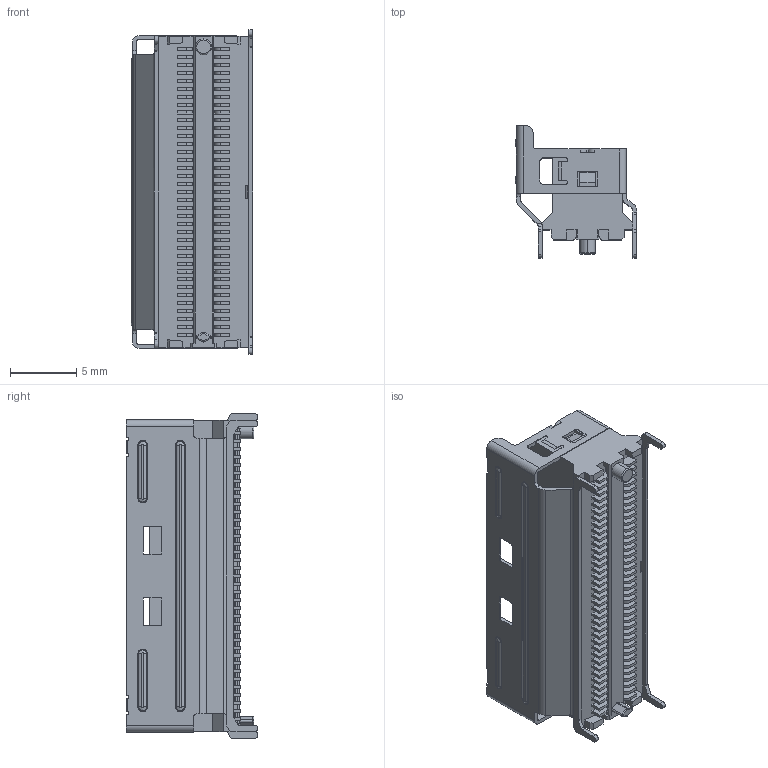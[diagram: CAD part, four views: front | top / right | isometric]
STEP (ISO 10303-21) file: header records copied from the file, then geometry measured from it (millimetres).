
FILE_DESCRIPTION((''),'2;1');
FILE_NAME('PRT0002','2026-07-13T15:08:56',('31000862'),(''),'CREO PARAMETRIC BY PTC INC, 2022244','CREO PARAMETRIC BY PTC INC, 2022244','');
FILE_SCHEMA(('CONFIG_CONTROL_DESIGN'));
Products named in the file (1): PRT0002
Bounding box: 9.18 x 9.95 x 24.5 mm (x, y, z)
Volume: 819.1 mm3; surface area: 1772.2 mm2
Topology: 1 solids, 1 shells, 2370 faces, 6433 edges, 4138 vertices
Faces by surface type: plane 1718, cylinder 416, bspline 164, extrusion 52, torus 14, cone 6
Entity records: 79447 total; most frequent: CARTESIAN_POINT 20254, ORIENTED_EDGE 12866, DIRECTION 11046, EDGE_CURVE 6433, VECTOR 5300, LINE 5248, VERTEX_POINT 4138, AXIS2_PLACEMENT_3D 2873
